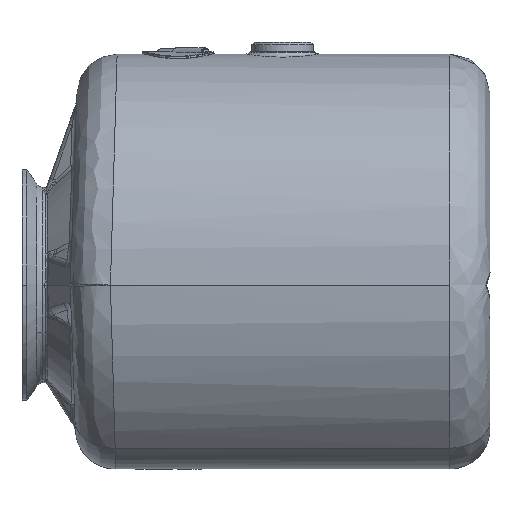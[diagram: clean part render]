
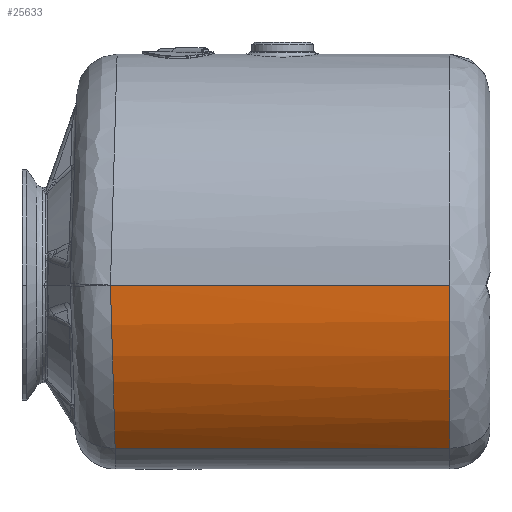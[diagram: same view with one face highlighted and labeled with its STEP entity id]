
A CAD part, left-side view. The second image highlights one B-rep face of the part: STEP entity #25633.
In plain terms, the highlighted cylindrical face has radius 98 mm (diameter 196 mm), a partial arc.
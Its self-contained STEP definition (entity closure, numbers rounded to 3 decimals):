
#209 = CARTESIAN_POINT ( 'NONE',  ( -69.416, 158.993, -69.176 ) ) ;
#996 = LINE ( 'NONE', #11637, #14094 ) ;
#2629 = CARTESIAN_POINT ( 'NONE',  ( -90.752, 159.922, -36.987 ) ) ;
#2653 = DIRECTION ( 'NONE',  ( 0., 1., 0. ) ) ;
#2866 = DIRECTION ( 'NONE',  ( 1., 0., 0. ) ) ;
#3466 = CARTESIAN_POINT ( 'NONE',  ( -92.661, 160.069, -31.933 ) ) ;
#3669 = CARTESIAN_POINT ( 'NONE',  ( -82.919, 159.48, -52.332 ) ) ;
#5907 = CARTESIAN_POINT ( 'NONE',  ( -90.932, 159.935, -36.544 ) ) ;
#6526 = CARTESIAN_POINT ( 'NONE',  ( -90.579, 159.91, -37.41 ) ) ;
#6724 = CARTESIAN_POINT ( 'NONE',  ( -97.723, 160.752, -8.257 ) ) ;
#6921 = CARTESIAN_POINT ( 'NONE',  ( -90.574, 159.91, -37.42 ) ) ;
#6992 = CARTESIAN_POINT ( 'NONE',  ( -98., 160.99, 0. ) ) ;
#9035 = EDGE_CURVE ( 'NONE', #26809, #32927, #36687, .T. ) ;
#9602 = CARTESIAN_POINT ( 'NONE',  ( -98., 160.99, 0. ) ) ;
#9796 = CARTESIAN_POINT ( 'NONE',  ( -90.663, 159.916, -37.206 ) ) ;
#9809 = CARTESIAN_POINT ( 'NONE',  ( -69.416, 158.993, -69.176 ) ) ;
#10195 = CARTESIAN_POINT ( 'NONE',  ( -73.57, 159.114, -65.008 ) ) ;
#10589 = VECTOR ( 'NONE', #25899, 1000. ) ;
#11637 = CARTESIAN_POINT ( 'NONE',  ( -98., 17., 0. ) ) ;
#12001 = EDGE_CURVE ( 'NONE', #32927, #31450, #25012, .T. ) ;
#12817 = CARTESIAN_POINT ( 'NONE',  ( -98., 17., 0. ) ) ;
#12996 = CARTESIAN_POINT ( 'NONE',  ( -91.399, 159.969, -35.362 ) ) ;
#14094 = VECTOR ( 'NONE', #34607, 1000. ) ;
#14996 = ORIENTED_EDGE ( 'NONE', *, *, #30096, .T. ) ;
#15863 = CARTESIAN_POINT ( 'NONE',  ( -90.575, 159.91, -37.419 ) ) ;
#16282 = CARTESIAN_POINT ( 'NONE',  ( -91.609, 159.985, -34.817 ) ) ;
#16558 = AXIS2_PLACEMENT_3D ( 'NONE', #25837, #2653, #2866 ) ;
#16687 = CARTESIAN_POINT ( 'NONE',  ( -92.239, 160.034, -33.129 ) ) ;
#16891 = CARTESIAN_POINT ( 'NONE',  ( -84.621, 159.56, -49.541 ) ) ;
#18028 = DIRECTION ( 'NONE',  ( 0., 1., 0. ) ) ;
#19528 = CARTESIAN_POINT ( 'NONE',  ( -90.618, 159.913, -37.315 ) ) ;
#20133 = CARTESIAN_POINT ( 'NONE',  ( -87.788, 159.729, -43.685 ) ) ;
#20228 = CARTESIAN_POINT ( 'NONE',  ( -69.416, 17., -69.176 ) ) ;
#21567 = ORIENTED_EDGE ( 'NONE', *, *, #9035, .T. ) ;
#22351 = CARTESIAN_POINT ( 'NONE',  ( -96.812, 160.539, -15.664 ) ) ;
#22973 = CARTESIAN_POINT ( 'NONE',  ( -90.595, 159.911, -37.369 ) ) ;
#23372 = CARTESIAN_POINT ( 'NONE',  ( -77.533, 159.251, -60.279 ) ) ;
#23740 = ORIENTED_EDGE ( 'NONE', *, *, #12001, .T. ) ;
#25012 = CIRCLE ( 'NONE', #32619, 98. ) ;
#25633 = ADVANCED_FACE ( 'NONE', ( #26454 ), #32332, .T. ) ;
#25837 = CARTESIAN_POINT ( 'NONE',  ( 0., 17., 0. ) ) ;
#25899 = DIRECTION ( 'NONE',  ( 0., -1., 0. ) ) ;
#26454 = FACE_OUTER_BOUND ( 'NONE', #27980, .T. ) ;
#26809 = VERTEX_POINT ( 'NONE', #9809 ) ;
#27190 = B_SPLINE_CURVE_WITH_KNOTS ( 'NONE', 3,
 ( #9602, #32307, #6724, #22351, #42722, #33134, #36010, #3466, #16687, #16282, #12996, #35583, #5907, #2629, #9796, #19528, #22973, #36211, #6526, #32933, #15863, #6921, #33337, #20133, #16891, #3669, #23372, #10195, #209 ),
 .UNSPECIFIED., .F., .F.,
 ( 4, 2, 2, 2, 2, 2, 1, 1, 1, 1, 1, 1, 1, 2, 2, 2, 2, 4 ),
 ( 0., 0.125, 0.25, 0.375, 0.437, 0.469, 0.484, 0.492, 0.496, 0.498, 0.499, 0.5, 0.5, 0.5, 0.5, 0.625, 0.75, 1. ),
 .UNSPECIFIED. ) ;
#27533 = CARTESIAN_POINT ( 'NONE',  ( 0., 17., 0. ) ) ;
#27881 = VERTEX_POINT ( 'NONE', #6992 ) ;
#27980 = EDGE_LOOP ( 'NONE', ( #23740, #14996, #32098, #21567 ) ) ;
#30096 = EDGE_CURVE ( 'NONE', #31450, #27881, #996, .T. ) ;
#31450 = VERTEX_POINT ( 'NONE', #12817 ) ;
#32098 = ORIENTED_EDGE ( 'NONE', *, *, #42193, .T. ) ;
#32307 = CARTESIAN_POINT ( 'NONE',  ( -98., 160.867, -4.262 ) ) ;
#32332 = CYLINDRICAL_SURFACE ( 'NONE', #16558, 98. ) ;
#32619 = AXIS2_PLACEMENT_3D ( 'NONE', #27533, #18028, #34503 ) ;
#32927 = VERTEX_POINT ( 'NONE', #34381 ) ;
#32933 = CARTESIAN_POINT ( 'NONE',  ( -90.576, 159.91, -37.416 ) ) ;
#33134 = CARTESIAN_POINT ( 'NONE',  ( -94.729, 160.261, -25.309 ) ) ;
#33337 = CARTESIAN_POINT ( 'NONE',  ( -89.253, 159.817, -40.619 ) ) ;
#34381 = CARTESIAN_POINT ( 'NONE',  ( -69.416, 17., -69.176 ) ) ;
#34503 = DIRECTION ( 'NONE',  ( 0., 0., 1. ) ) ;
#34607 = DIRECTION ( 'NONE',  ( 0., 1., 0. ) ) ;
#35583 = CARTESIAN_POINT ( 'NONE',  ( -91.087, 159.946, -36.155 ) ) ;
#36010 = CARTESIAN_POINT ( 'NONE',  ( -93.914, 160.179, -28.131 ) ) ;
#36211 = CARTESIAN_POINT ( 'NONE',  ( -90.584, 159.91, -37.396 ) ) ;
#36687 = LINE ( 'NONE', #20228, #10589 ) ;
#42193 = EDGE_CURVE ( 'NONE', #27881, #26809, #27190, .T. ) ;
#42722 = CARTESIAN_POINT ( 'NONE',  ( -96.179, 160.441, -19.076 ) ) ;
